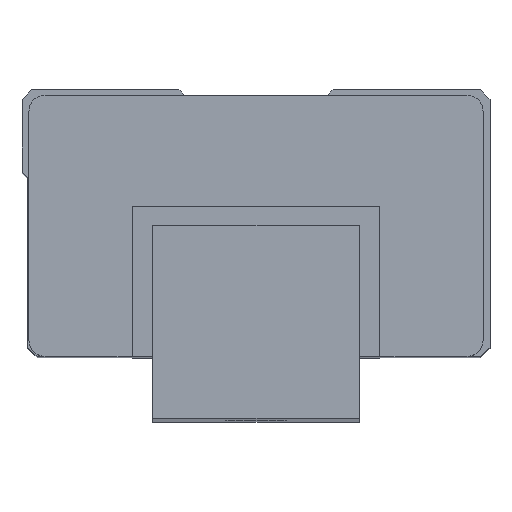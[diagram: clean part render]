
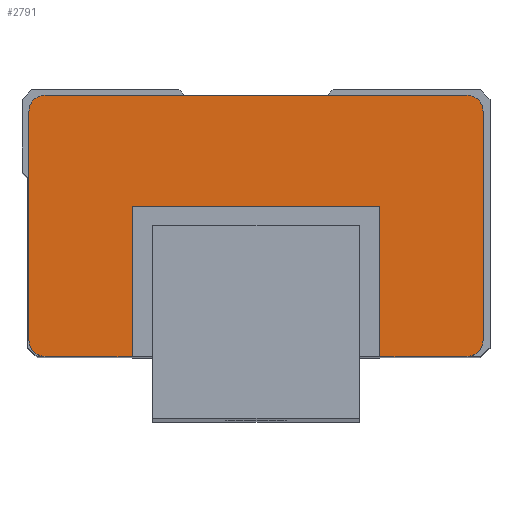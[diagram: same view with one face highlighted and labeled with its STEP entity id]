
A CAD part, top view. The second image highlights one B-rep face of the part: STEP entity #2791.
In plain terms, the highlighted planar face has unit normal (0, 0, 1).
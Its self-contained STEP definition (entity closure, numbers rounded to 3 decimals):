
#2528=CARTESIAN_POINT('',(-1.5,4.6,99.5));
#2529=VERTEX_POINT('',#2528);
#2530=CARTESIAN_POINT('',(-1.5,15.5,99.5));
#2531=VERTEX_POINT('',#2530);
#2532=CARTESIAN_POINT('',(-1.5,4.6,99.5));
#2533=DIRECTION('',(0.0,1.0,0.0));
#2534=VECTOR('',#2533,1.0);
#2535=LINE('',#2532,#2534);
#2536=EDGE_CURVE('',#2529,#2531,#2535,.T.);
#2568=CARTESIAN_POINT('',(16.5,15.5,99.5));
#2569=VERTEX_POINT('',#2568);
#2570=CARTESIAN_POINT('',(-1.5,15.5,99.5));
#2571=DIRECTION('',(1.0,0.0,0.0));
#2572=VECTOR('',#2571,1.);
#2573=LINE('',#2570,#2572);
#2574=EDGE_CURVE('',#2531,#2569,#2573,.T.);
#2599=CARTESIAN_POINT('',(16.5,4.6,99.5));
#2600=VERTEX_POINT('',#2599);
#2601=CARTESIAN_POINT('',(16.5,15.5,99.5));
#2602=DIRECTION('',(0.0,-1.0,0.0));
#2603=VECTOR('',#2602,1.0);
#2604=LINE('',#2601,#2603);
#2605=EDGE_CURVE('',#2569,#2600,#2604,.T.);
#2679=CARTESIAN_POINT('',(-7.8,4.6,99.5));
#2680=VERTEX_POINT('',#2679);
#2681=CARTESIAN_POINT('',(-1.5,4.6,99.5));
#2682=DIRECTION('',(-1.0,0.0,0.0));
#2683=VECTOR('',#2682,1.0);
#2684=LINE('',#2681,#2683);
#2685=EDGE_CURVE('',#2529,#2680,#2684,.T.);
#2714=CARTESIAN_POINT('',(-10.65,3.65,99.5));
#2715=DIRECTION('',(0.0,0.0,1.0));
#2716=DIRECTION('',(1.0,0.0,0.0));
#2717=AXIS2_PLACEMENT_3D('',#2714,#2715,#2716);
#2718=PLANE('',#2717);
#2719=ORIENTED_EDGE('',*,*,#2536,.T.);
#2720=ORIENTED_EDGE('',*,*,#2574,.T.);
#2721=ORIENTED_EDGE('',*,*,#2605,.T.);
#2722=CARTESIAN_POINT('',(22.8,4.6,99.5));
#2723=VERTEX_POINT('',#2722);
#2724=CARTESIAN_POINT('',(22.8,4.6,99.5));
#2725=DIRECTION('',(-1.0,0.0,0.0));
#2726=VECTOR('',#2725,1.0);
#2727=LINE('',#2724,#2726);
#2728=EDGE_CURVE('',#2723,#2600,#2727,.T.);
#2729=ORIENTED_EDGE('',*,*,#2728,.F.);
#2730=CARTESIAN_POINT('',(24.,5.8,99.5));
#2731=VERTEX_POINT('',#2730);
#2732=CARTESIAN_POINT('',(22.8,5.8,99.5));
#2733=DIRECTION('',(0.0,0.0,-1.0));
#2734=DIRECTION('',(1.0,0.,0.0));
#2735=AXIS2_PLACEMENT_3D('',#2732,#2733,#2734);
#2736=CIRCLE('',#2735,1.2);
#2737=EDGE_CURVE('',#2731,#2723,#2736,.T.);
#2738=ORIENTED_EDGE('',*,*,#2737,.F.);
#2739=CARTESIAN_POINT('',(24.,22.4,99.5));
#2740=VERTEX_POINT('',#2739);
#2741=CARTESIAN_POINT('',(24.,22.4,99.5));
#2742=DIRECTION('',(0.0,-1.0,0.0));
#2743=VECTOR('',#2742,1.0);
#2744=LINE('',#2741,#2743);
#2745=EDGE_CURVE('',#2740,#2731,#2744,.T.);
#2746=ORIENTED_EDGE('',*,*,#2745,.F.);
#2747=CARTESIAN_POINT('',(22.8,23.6,99.5));
#2748=VERTEX_POINT('',#2747);
#2749=CARTESIAN_POINT('',(22.8,22.4,99.5));
#2750=DIRECTION('',(0.0,0.0,-1.0));
#2751=DIRECTION('',(0.,1.0,0.0));
#2752=AXIS2_PLACEMENT_3D('',#2749,#2750,#2751);
#2753=CIRCLE('',#2752,1.2);
#2754=EDGE_CURVE('',#2748,#2740,#2753,.T.);
#2755=ORIENTED_EDGE('',*,*,#2754,.F.);
#2756=CARTESIAN_POINT('',(-7.8,23.6,99.5));
#2757=VERTEX_POINT('',#2756);
#2758=CARTESIAN_POINT('',(-7.8,23.6,99.5));
#2759=DIRECTION('',(1.0,0.0,0.0));
#2760=VECTOR('',#2759,1.0);
#2761=LINE('',#2758,#2760);
#2762=EDGE_CURVE('',#2757,#2748,#2761,.T.);
#2763=ORIENTED_EDGE('',*,*,#2762,.F.);
#2764=CARTESIAN_POINT('',(-9.,22.4,99.5));
#2765=VERTEX_POINT('',#2764);
#2766=CARTESIAN_POINT('',(-7.8,22.4,99.5));
#2767=DIRECTION('',(0.0,0.0,-1.0));
#2768=DIRECTION('',(-1.0,0.0,0.0));
#2769=AXIS2_PLACEMENT_3D('',#2766,#2767,#2768);
#2770=CIRCLE('',#2769,1.2);
#2771=EDGE_CURVE('',#2765,#2757,#2770,.T.);
#2772=ORIENTED_EDGE('',*,*,#2771,.F.);
#2773=CARTESIAN_POINT('',(-9.,5.8,99.5));
#2774=VERTEX_POINT('',#2773);
#2775=CARTESIAN_POINT('',(-9.,5.8,99.5));
#2776=DIRECTION('',(0.0,1.0,0.0));
#2777=VECTOR('',#2776,1.0);
#2778=LINE('',#2775,#2777);
#2779=EDGE_CURVE('',#2774,#2765,#2778,.T.);
#2780=ORIENTED_EDGE('',*,*,#2779,.F.);
#2781=CARTESIAN_POINT('',(-7.8,5.8,99.5));
#2782=DIRECTION('',(0.0,0.0,-1.0));
#2783=DIRECTION('',(0.,-1.0,0.0));
#2784=AXIS2_PLACEMENT_3D('',#2781,#2782,#2783);
#2785=CIRCLE('',#2784,1.2);
#2786=EDGE_CURVE('',#2680,#2774,#2785,.T.);
#2787=ORIENTED_EDGE('',*,*,#2786,.F.);
#2788=ORIENTED_EDGE('',*,*,#2685,.F.);
#2789=EDGE_LOOP('',(#2719,#2720,#2721,#2729,#2738,#2746,#2755,#2763,#2772,#2780,#2787,#2788));
#2790=FACE_OUTER_BOUND('',#2789,.T.);
#2791=ADVANCED_FACE('',(#2790),#2718,.T.);
